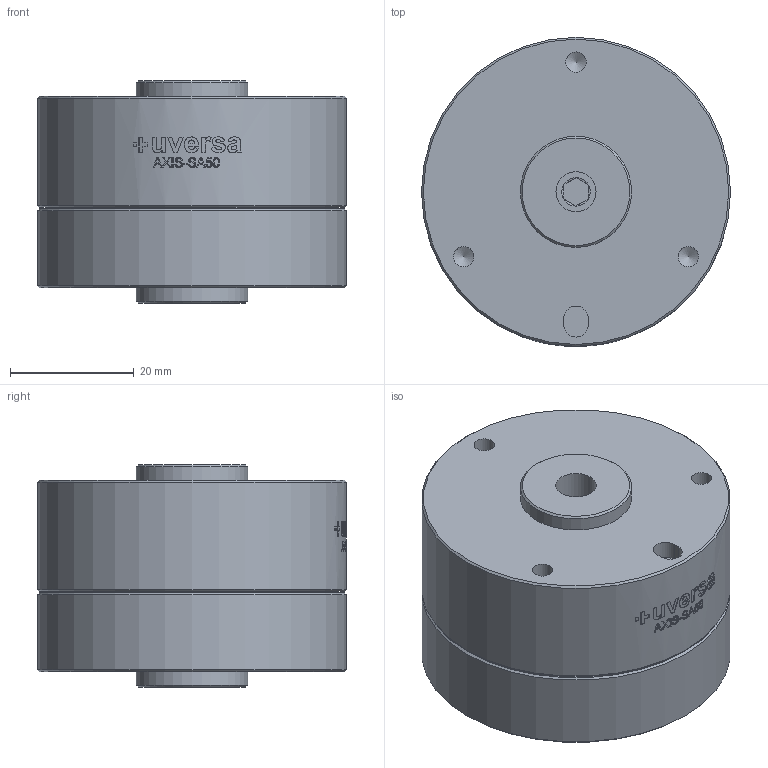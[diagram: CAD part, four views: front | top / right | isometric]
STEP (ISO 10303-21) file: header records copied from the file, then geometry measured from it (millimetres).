
FILE_DESCRIPTION(/* description */ ('Unknown'),/* implementation_level */ '2;1');
FILE_NAME(/* name */ 'Axis SA50',/* time_stamp */ '2025-06-03T11:03:27+02:00',/* author */ ('Robert Keck'),/* organization */ ('Unknown'),/* preprocessor_version */ 'ST-DEVELOPER v16.7',/* originating_system */ 'Solid Edge',/* authorisation */ 'Unknown');
FILE_SCHEMA (('AUTOMOTIVE_DESIGN {1 0 10303 214 3 1 1}'));
Length unit declared in the file: millimetre
Products named in the file (1): Axis SA50+
Bounding box: 50 x 50 x 36 mm (x, y, z)
Volume: 42135.4 mm3; surface area: 19927.6 mm2
Topology: 1 solids, 8 shells, 298 faces, 682 edges, 440 vertices
Faces by surface type: plane 110, cylinder 79, bspline 60, cone 43, torus 6
Full cylindrical faces by diameter (mm): 2.5 x12, 3 x1, 3.3 x12, 4.917 x2, 6 x2, 6.5 x2, 8 x6, 8.4 x2, 9.8 x1, 11.3 x2, 11.34 x2, 18 x2, 28 x2, 29 x1, 44 x1, 46 x1, 50 x2
Entity records: 14832 total; most frequent: CARTESIAN_POINT 6922, ORIENTED_EDGE 1086, DIRECTION 1085, EDGE_CURVE 543, AXIS2_PLACEMENT_3D 458, FACE_BOUND 447, EDGE_LOOP 434, VERTEX_POINT 404
